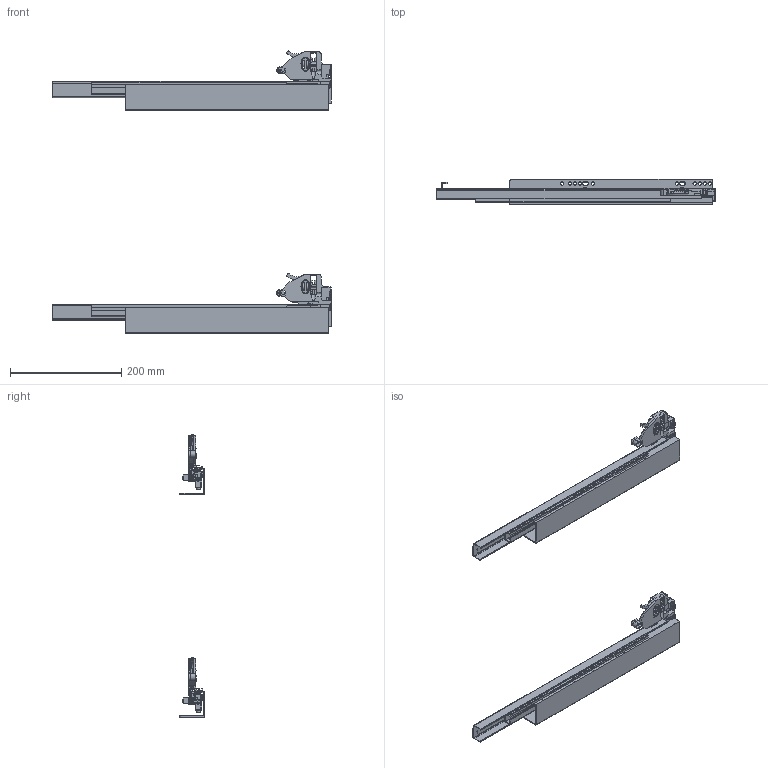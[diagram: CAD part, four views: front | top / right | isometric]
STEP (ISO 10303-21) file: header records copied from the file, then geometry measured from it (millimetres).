
FILE_DESCRIPTION(/* description */ (''),/* implementation_level */ '2;1');
FILE_NAME(/* name */ 'C:\Users\dmitruk\Documents\WORK\НАПРАВЛЯЮЩИЕ\Скрытого монтажаНаправляющие скрытого монтажа 3D-500.stp',/* time_stamp */ '2022-07-29T12:20:32+03:00',/* author */ ('dmitruk'),/* organization */ (''),/* preprocessor_version */ 'ST-DEVELOPER v16.5',/* originating_system */ 'Autodesk Inventor 2017',/* authorisation */ '');
FILE_SCHEMA (('AUTOMOTIVE_DESIGN { 1 0 10303 214 3 1 1 }'));
Length unit declared in the file: millimetre
Products named in the file (6): Направляющие \X2\0441043A
0440044B0442043E0433043E\X0\ монтажа 3D; Направляющие \X2\0441043A
0440044B0442043E0433043E\X0\ монтажа 3D \X2\043F
044004300432\X0\; 3D CP; 3D DP; Крепление 3D \X2\043B
04350432\X0\; 3D Направляющие \X2\0441043A
0440044B0442043E0433043E\X0\ монтажа \X2\043F
043E043B043D043E0433043E\X0\ \X2\0432044B04340432043804360435043D0438044F
\X0\ slim DW slim slide
Assembly tree (6 placements, depth 3):
  Направляющие \X2\0441043A
0440044B0442043E0433043E\X0\ монтажа 3D
    Направляющие \X2\0441043A
0440044B0442043E0433043E\X0\ монтажа 3D \X2\043F
044004300432\X0\  x2
      3D CP
      3D DP
      Крепление 3D \X2\043B
04350432\X0\
      3D Направляющие \X2\0441043A
0440044B0442043E0433043E\X0\ монтажа \X2\043F
043E043B043D043E0433043E\X0\ \X2\0432044B04340432043804360435043D0438044F
\X0\ slim DW slim slide
Bounding box: 500 x 46 x 506.67 mm (x, y, z)
Volume: 330117.8 mm3; surface area: 422848.9 mm2
Topology: 24 solids, 24 shells, 982 faces, 2774 edges, 1826 vertices
Faces by surface type: plane 772, cylinder 196, cone 6, sphere 4, bspline 2, torus 2
Full cylindrical faces by diameter (mm): 3.8 x10, 6 x40, 7 x2, 12 x4
Entity records: 16097 total; most frequent: CARTESIAN_POINT 2925, ORIENTED_EDGE 2710, DIRECTION 2569, EDGE_CURVE 1352, LINE 1127, VECTOR 1127, VERTEX_POINT 909, AXIS2_PLACEMENT_3D 721
